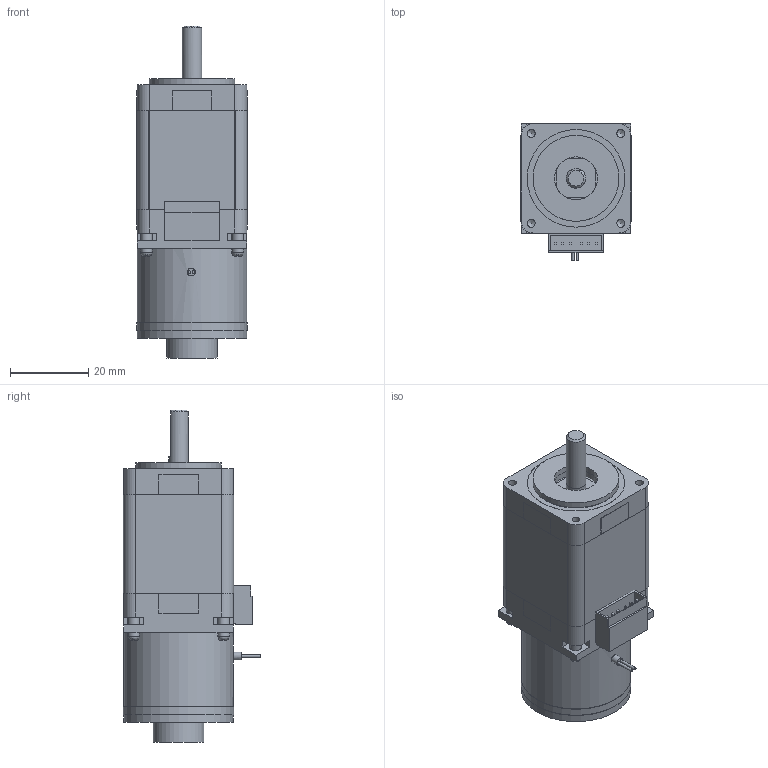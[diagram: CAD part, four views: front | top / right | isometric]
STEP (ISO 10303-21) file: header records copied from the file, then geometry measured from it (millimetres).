
FILE_DESCRIPTION(/* description */ (''),/* implementation_level */ '2;1');
FILE_NAME(/* name */ 'UB28D24-D10-440.stp',/* time_stamp */ '2018-08-17T15:06:01+08:00',/* author */ (''),/* organization */ (''),/* preprocessor_version */ 'ST-DEVELOPER v11',/* originating_system */ 'SIEMENS UGS NX 6.0',/* authorisation */ '');
FILE_SCHEMA (('CONFIG_CONTROL_DESIGN'));
Length unit declared in the file: millimetre
Products named in the file (1): UB28D24-D10-440
Bounding box: 28.2 x 35.1 x 85 mm (x, y, z)
Volume: 70824.6 mm3; surface area: 17503.3 mm2
Topology: 14 solids, 19 shells, 317 faces, 773 edges, 516 vertices
Faces by surface type: plane 270, cylinder 38, cone 5, bspline 4
Full cylindrical faces by diameter (mm): 0.7 x2, 2 x1, 2.05 x4, 3 x8, 5 x3, 6 x1, 10 x1, 11 x2, 13 x1, 14.3 x1, 22 x2, 25 x1, 28 x2, 28.2 x1
Entity records: 9301 total; most frequent: CARTESIAN_POINT 2076, ORIENTED_EDGE 1418, DIRECTION 1385, EDGE_CURVE 709, LINE 559, VECTOR 559, VERTEX_POINT 494, AXIS2_PLACEMENT_3D 413
